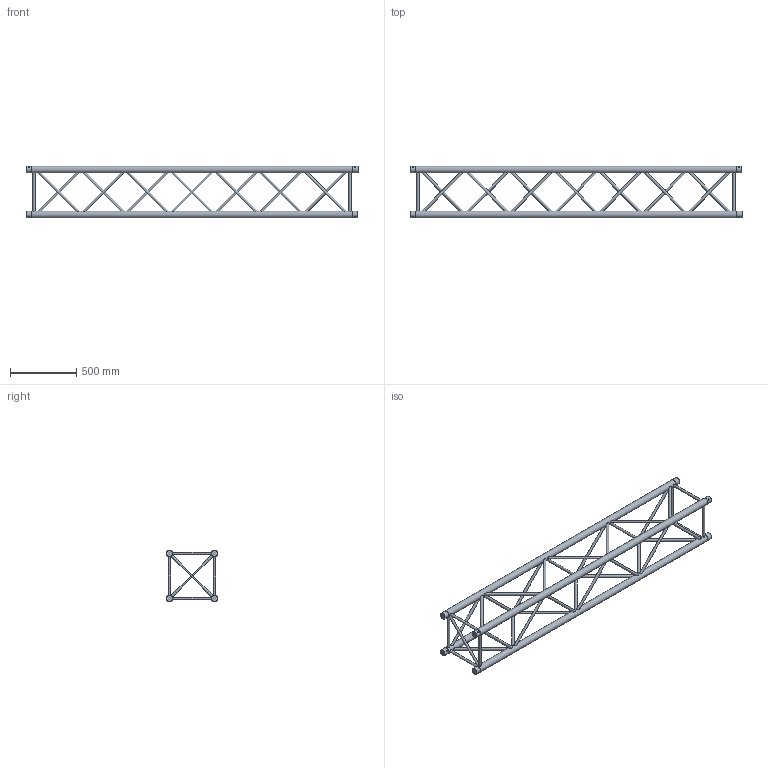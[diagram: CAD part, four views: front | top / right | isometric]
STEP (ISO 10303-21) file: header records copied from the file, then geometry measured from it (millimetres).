
FILE_DESCRIPTION(/* description */ (''),/* implementation_level */ '2;1');
FILE_NAME(/* name */ 'M:\Symbolen\STP\40-er truss\111080197.stp',/* time_stamp */ '2015-02-26T16:31:39+01:00',/* author */ ('Stephan'),/* organization */ (''),/* preprocessor_version */ 'ST-DEVELOPER v15.6',/* originating_system */ 'Autodesk Inventor 2015',/* authorisation */ '');
FILE_SCHEMA (('AUTOMOTIVE_DESIGN { 1 0 10303 214 3 1 1 }'));
Length unit declared in the file: millimetre
Products named in the file (1): 160023959
Bounding box: 2500 x 389.98 x 389.98 mm (x, y, z)
Volume: 23487352 mm3; surface area: 2577199.7 mm2
Topology: 34 solids, 42 shells, 286 faces, 534 edges, 332 vertices
Faces by surface type: plane 164, cylinder 114, cone 8
Full cylindrical faces by diameter (mm): 10 x8, 20 x38, 49.5 x8, 51 x4
Entity records: 7617 total; most frequent: CARTESIAN_POINT 2127, DIRECTION 950, ORIENTED_EDGE 936, EDGE_CURVE 452, AXIS2_PLACEMENT_3D 411, EDGE_LOOP 392, VERTEX_POINT 324, STYLED_ITEM 233
